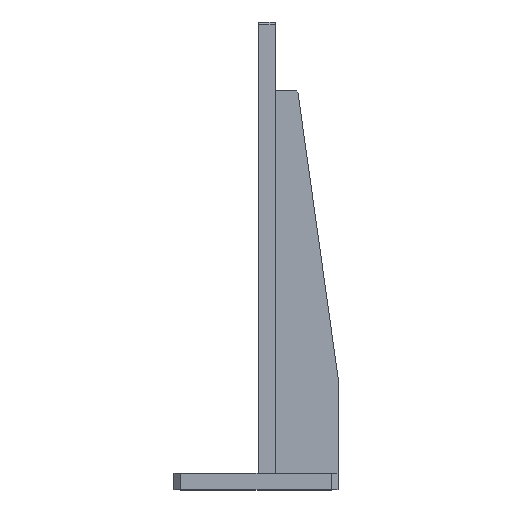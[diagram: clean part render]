
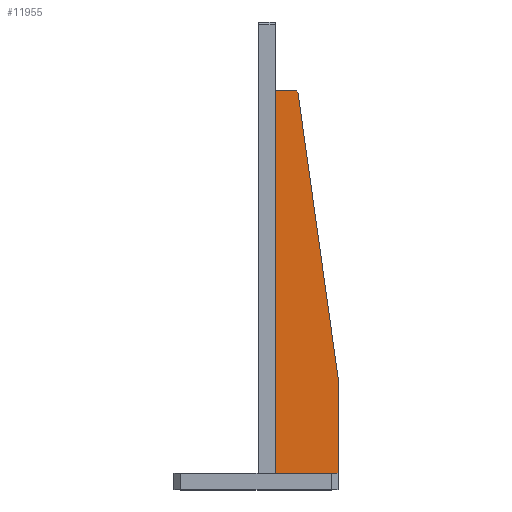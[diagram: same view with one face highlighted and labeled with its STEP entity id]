
A CAD part, top view. The second image highlights one B-rep face of the part: STEP entity #11955.
In plain terms, the highlighted planar face has unit normal (0, 0, 1).
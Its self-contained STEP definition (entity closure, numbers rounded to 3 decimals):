
#92 = DIRECTION ( 'NONE',  ( 0.139, -0.99, 0. ) ) ;
#133 = LINE ( 'NONE', #324, #10743 ) ;
#324 = CARTESIAN_POINT ( 'NONE',  ( 58., 12., 43.5 ) ) ;
#414 = CARTESIAN_POINT ( 'NONE',  ( 13., 12., 43.5 ) ) ;
#589 = CARTESIAN_POINT ( 'NONE',  ( 12., 12., 43.5 ) ) ;
#851 = VERTEX_POINT ( 'NONE', #11767 ) ;
#937 = DIRECTION ( 'NONE',  ( 0., -1., 0. ) ) ;
#992 = CARTESIAN_POINT ( 'NONE',  ( 28.65, 290.836, 43.5 ) ) ;
#1075 = EDGE_CURVE ( 'NONE', #11829, #1358, #133, .T. ) ;
#1259 = VECTOR ( 'NONE', #11218, 1000. ) ;
#1358 = VERTEX_POINT ( 'NONE', #414 ) ;
#1409 = EDGE_CURVE ( 'NONE', #12649, #7270, #11903, .T. ) ;
#1447 = EDGE_CURVE ( 'NONE', #7270, #851, #6564, .T. ) ;
#2680 = CARTESIAN_POINT ( 'NONE',  ( 58., 12., 43.5 ) ) ;
#2877 = CARTESIAN_POINT ( 'NONE',  ( 12., 13., 43.5 ) ) ;
#2931 = EDGE_CURVE ( 'NONE', #3448, #11829, #12024, .T. ) ;
#3057 = VECTOR ( 'NONE', #7037, 1000. ) ;
#3233 = PLANE ( 'NONE',  #10355 ) ;
#3251 = EDGE_CURVE ( 'NONE', #13745, #851, #4863, .T. ) ;
#3286 = CARTESIAN_POINT ( 'NONE',  ( 12., 12., 43.5 ) ) ;
#3448 = VERTEX_POINT ( 'NONE', #8480 ) ;
#4407 = EDGE_CURVE ( 'NONE', #13745, #3448, #5819, .T. ) ;
#4681 = ORIENTED_EDGE ( 'NONE', *, *, #1075, .F. ) ;
#4863 = LINE ( 'NONE', #10254, #6517 ) ;
#5819 = LINE ( 'NONE', #10597, #9616 ) ;
#6129 = LINE ( 'NONE', #2877, #9629 ) ;
#6391 = CARTESIAN_POINT ( 'NONE',  ( 58., 82., 43.5 ) ) ;
#6517 = VECTOR ( 'NONE', #13477, 1000. ) ;
#6564 = LINE ( 'NONE', #6948, #3057 ) ;
#6948 = CARTESIAN_POINT ( 'NONE',  ( 12., 292., 43.5 ) ) ;
#7037 = DIRECTION ( 'NONE',  ( 1., 0., 0. ) ) ;
#7138 = ORIENTED_EDGE ( 'NONE', *, *, #2931, .F. ) ;
#7270 = VERTEX_POINT ( 'NONE', #8550 ) ;
#7294 = ORIENTED_EDGE ( 'NONE', *, *, #12360, .T. ) ;
#7721 = DIRECTION ( 'NONE',  ( -1., 0., 0. ) ) ;
#8079 = EDGE_LOOP ( 'NONE', ( #10940, #7294, #4681, #7138, #13785, #11751, #10011 ) ) ;
#8480 = CARTESIAN_POINT ( 'NONE',  ( 58., 82., 43.5 ) ) ;
#8550 = CARTESIAN_POINT ( 'NONE',  ( 12., 292., 43.5 ) ) ;
#9146 = DIRECTION ( 'NONE',  ( 0.707, -0.707, 0. ) ) ;
#9529 = VECTOR ( 'NONE', #937, 1000. ) ;
#9616 = VECTOR ( 'NONE', #92, 1000. ) ;
#9629 = VECTOR ( 'NONE', #9146, 1000. ) ;
#10011 = ORIENTED_EDGE ( 'NONE', *, *, #1447, .F. ) ;
#10254 = CARTESIAN_POINT ( 'NONE',  ( 28.65, 290.836, 43.5 ) ) ;
#10316 = FACE_OUTER_BOUND ( 'NONE', #8079, .T. ) ;
#10355 = AXIS2_PLACEMENT_3D ( 'NONE', #3286, #13707, #12691 ) ;
#10597 = CARTESIAN_POINT ( 'NONE',  ( 28.486, 292., 43.5 ) ) ;
#10743 = VECTOR ( 'NONE', #7721, 1000. ) ;
#10940 = ORIENTED_EDGE ( 'NONE', *, *, #1409, .F. ) ;
#11218 = DIRECTION ( 'NONE',  ( 0., 1., 0. ) ) ;
#11751 = ORIENTED_EDGE ( 'NONE', *, *, #3251, .T. ) ;
#11767 = CARTESIAN_POINT ( 'NONE',  ( 27.486, 292., 43.5 ) ) ;
#11829 = VERTEX_POINT ( 'NONE', #2680 ) ;
#11903 = LINE ( 'NONE', #589, #1259 ) ;
#11955 = ADVANCED_FACE ( 'NONE', ( #10316 ), #3233, .F. ) ;
#12024 = LINE ( 'NONE', #6391, #9529 ) ;
#12033 = CARTESIAN_POINT ( 'NONE',  ( 12., 13., 43.5 ) ) ;
#12360 = EDGE_CURVE ( 'NONE', #12649, #1358, #6129, .T. ) ;
#12649 = VERTEX_POINT ( 'NONE', #12033 ) ;
#12691 = DIRECTION ( 'NONE',  ( -1., 0., 0. ) ) ;
#13477 = DIRECTION ( 'NONE',  ( -0.707, 0.707, 0. ) ) ;
#13707 = DIRECTION ( 'NONE',  ( 0., 0., -1. ) ) ;
#13745 = VERTEX_POINT ( 'NONE', #992 ) ;
#13785 = ORIENTED_EDGE ( 'NONE', *, *, #4407, .F. ) ;
